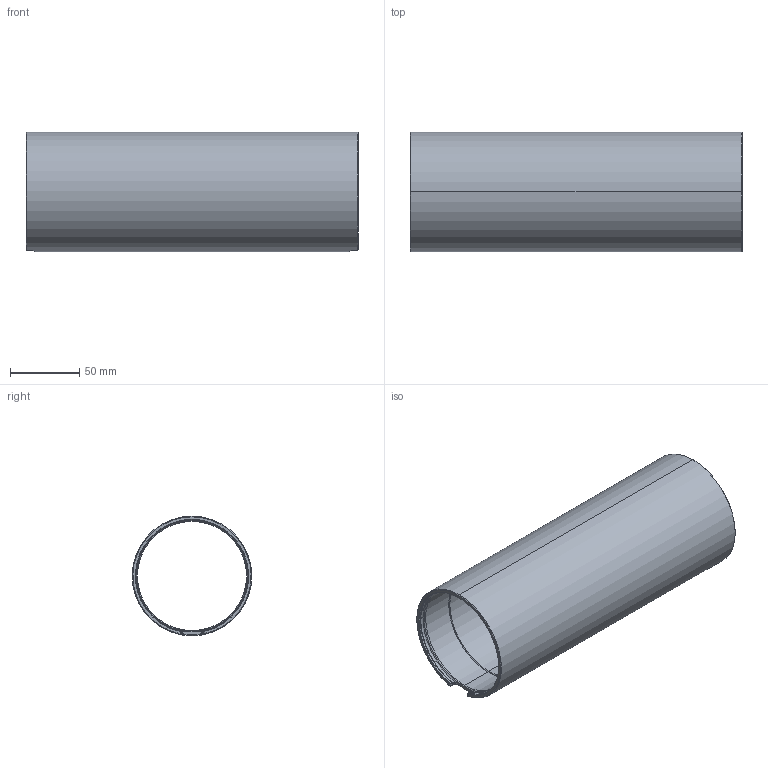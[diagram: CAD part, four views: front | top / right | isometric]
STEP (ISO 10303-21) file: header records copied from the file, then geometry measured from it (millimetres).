
FILE_DESCRIPTION (( 'STEP AP203' ), '1' );
FILE_NAME ('BR-106278-240_RevA.step', '2026-01-13T23:24:00', ( '' ), ( '' ), 'SwSTEP 2.0', 'SolidWorks 2024', '' );
FILE_SCHEMA (( 'CONFIG_CONTROL_DESIGN' ));
Length unit declared in the file: millimetre
Products named in the file (1): BR-106278-240
Bounding box: 240 x 86.48 x 86.5 mm (x, y, z)
Volume: 221539.3 mm3; surface area: 126396.7 mm2
Topology: 1 solids, 1 shells, 86 faces, 224 edges, 140 vertices
Faces by surface type: bspline 24, cylinder 22, cone 14, plane 14, torus 12
Entity records: 5752 total; most frequent: CARTESIAN_POINT 3834, ORIENTED_EDGE 448, DIRECTION 294, EDGE_CURVE 224, VERTEX_POINT 140, AXIS2_PLACEMENT_3D 127, B_SPLINE_CURVE_WITH_KNOTS 116, EDGE_LOOP 88
